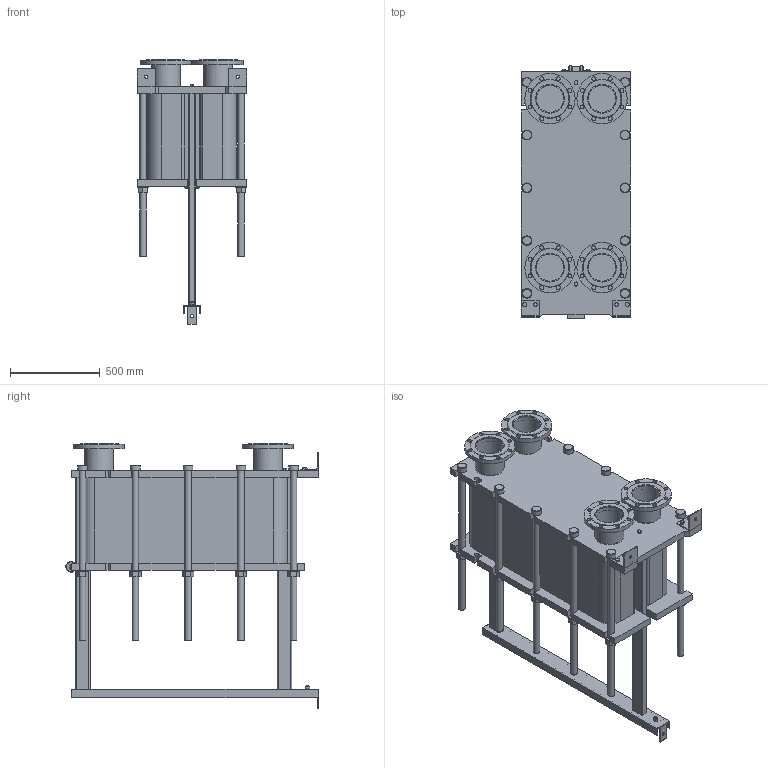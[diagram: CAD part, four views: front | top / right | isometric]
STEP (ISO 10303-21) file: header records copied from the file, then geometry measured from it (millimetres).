
FILE_DESCRIPTION(/* description */ (''),/* implementation_level */ '2;1');
FILE_NAME(/* name */ 'C:\Users\zhuro\Desktop\ENCO\TO\ЭН-041\ЭН-0,5-041-138-1.stp',/* time_stamp */ '2022-06-06T11:00:43+03:00',/* author */ ('zhuro'),/* organization */ (''),/* preprocessor_version */ 'ST-DEVELOPER v18.1',/* originating_system */ 'Autodesk Inventor 2022',/* authorisation */ '');
FILE_SCHEMA (('AUTOMOTIVE_DESIGN { 1 0 10303 214 3 1 1 }'));
Length unit declared in the file: millimetre
Products named in the file (1): ЭН-0,5-041-138-1
Bounding box: 610 x 1406.5 x 1475 mm (x, y, z)
Volume: 350919897.6 mm3; surface area: 9862380 mm2
Topology: 52 solids, 52 shells, 711 faces, 1696 edges, 1094 vertices
Faces by surface type: plane 487, cylinder 177, cone 41, torus 6
Full cylindrical faces by diameter (mm): 8 x4, 10 x2, 16 x8, 18 x3, 22 x32, 36 x24, 50 x1, 54 x10, 60 x12, 151 x4, 161 x8, 280 x4
Entity records: 22667 total; most frequent: CARTESIAN_POINT 5230, DIRECTION 3644, ORIENTED_EDGE 3392, EDGE_CURVE 1696, AXIS2_PLACEMENT_3D 1272, LINE 1100, VECTOR 1100, VERTEX_POINT 1094
